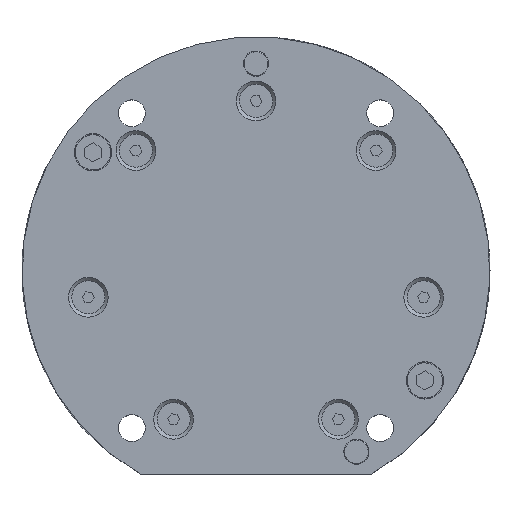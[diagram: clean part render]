
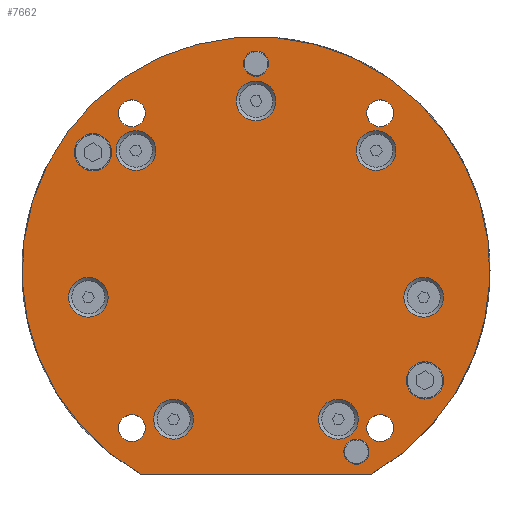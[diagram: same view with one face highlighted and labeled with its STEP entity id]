
A CAD part, top view. The second image highlights one B-rep face of the part: STEP entity #7662.
In plain terms, the highlighted planar face has unit normal (0, 0, 1).
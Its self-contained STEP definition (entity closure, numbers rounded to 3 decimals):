
#7662=ADVANCED_FACE('',(#20522,#20523,#20524,#20525,#20526,#20527,#20528
   ,#20529,#20530,#20531,#20532,#20533,#20534,#20535,#20536,#20537),
   #20643,.F.);
#13467=VERTEX_POINT('',#13468);
#13468=CARTESIAN_POINT('',(-27.654,-49.27,60.5)
   );
#13469=EDGE_CURVE('',#13467,#13475,#13470,.T.);
#13470=CIRCLE('',#13471,56.5);
#13471=AXIS2_PLACEMENT_3D('',#13472,#13473,#13474);
#13472=CARTESIAN_POINT('',(0.,0.,
   60.5));
#13473=DIRECTION('',(0.,0.,-1.));
#13474=DIRECTION('',(-1.,0.,0.));
#13475=VERTEX_POINT('',#13476);
#13476=CARTESIAN_POINT('',(27.654,-49.27,60.5))
   ;
#13585=EDGE_CURVE('',#13467,#13475,#13586,.T.);
#13586=LINE('',#13587,#13588);
#13587=CARTESIAN_POINT('',(-27.654,-49.27,60.5)
   );
#13588=VECTOR('',#13589,1.);
#13589=DIRECTION('',(1.,0.,0.));
#14880=EDGE_CURVE('',#14886,#14886,#14881,.T.);
#14881=CIRCLE('',#14882,3.25);
#14882=AXIS2_PLACEMENT_3D('',#14883,#14884,#14885);
#14883=CARTESIAN_POINT('',(30.,-38.,60.5));
#14884=DIRECTION('',(0.,0.,1.));
#14885=DIRECTION('',(1.,0.,0.));
#14886=VERTEX_POINT('',#14887);
#14887=CARTESIAN_POINT('',(33.25,-38.,60.5));
#14937=EDGE_CURVE('',#14943,#14943,#14938,.T.);
#14938=CIRCLE('',#14939,3.25);
#14939=AXIS2_PLACEMENT_3D('',#14940,#14941,#14942);
#14940=CARTESIAN_POINT('',(30.,38.,60.5));
#14941=DIRECTION('',(0.,0.,1.));
#14942=DIRECTION('',(1.,0.,0.));
#14943=VERTEX_POINT('',#14944);
#14944=CARTESIAN_POINT('',(33.25,38.,60.5));
#14994=EDGE_CURVE('',#15000,#15000,#14995,.T.);
#14995=CIRCLE('',#14996,3.25);
#14996=AXIS2_PLACEMENT_3D('',#14997,#14998,#14999);
#14997=CARTESIAN_POINT('',(-30.,38.,60.5));
#14998=DIRECTION('',(0.,0.,1.));
#14999=DIRECTION('',(1.,0.,0.));
#15000=VERTEX_POINT('',#15001);
#15001=CARTESIAN_POINT('',(-26.75,38.,60.5));
#15051=EDGE_CURVE('',#15057,#15057,#15052,.T.);
#15052=CIRCLE('',#15053,3.25);
#15053=AXIS2_PLACEMENT_3D('',#15054,#15055,#15056);
#15054=CARTESIAN_POINT('',(-30.,-38.,60.5));
#15055=DIRECTION('',(0.,0.,1.));
#15056=DIRECTION('',(1.,0.,0.));
#15057=VERTEX_POINT('',#15058);
#15058=CARTESIAN_POINT('',(-26.75,-38.,60.5));
#20482=EDGE_CURVE('',#20488,#20488,#20483,.T.);
#20483=CIRCLE('',#20484,3.035);
#20484=AXIS2_PLACEMENT_3D('',#20485,#20486,#20487);
#20485=CARTESIAN_POINT('',(24.24,-43.731,
   60.5));
#20486=DIRECTION('',(0.,0.,1.));
#20487=DIRECTION('',(1.,0.,0.));
#20488=VERTEX_POINT('',#20489);
#20489=CARTESIAN_POINT('',(27.275,-43.731,
   60.5));
#20509=EDGE_CURVE('',#20515,#20515,#20510,.T.);
#20510=CIRCLE('',#20511,3.035);
#20511=AXIS2_PLACEMENT_3D('',#20512,#20513,#20514);
#20512=CARTESIAN_POINT('',(0.,50.,60.5));
#20513=DIRECTION('',(0.,0.,1.));
#20514=DIRECTION('',(1.,0.,0.));
#20515=VERTEX_POINT('',#20516);
#20516=CARTESIAN_POINT('',(3.035,50.,60.5));
#20522=FACE_OUTER_BOUND('',#20538,.T.);
#20523=FACE_BOUND('',#20539,.T.);
#20524=FACE_BOUND('',#20540,.T.);
#20525=FACE_BOUND('',#20541,.T.);
#20526=FACE_BOUND('',#20542,.T.);
#20527=FACE_BOUND('',#20543,.T.);
#20528=FACE_BOUND('',#20544,.T.);
#20529=FACE_BOUND('',#20545,.T.);
#20530=FACE_BOUND('',#20546,.T.);
#20531=FACE_BOUND('',#20547,.T.);
#20532=FACE_BOUND('',#20548,.T.);
#20533=FACE_BOUND('',#20549,.T.);
#20534=FACE_BOUND('',#20550,.T.);
#20535=FACE_BOUND('',#20551,.T.);
#20536=FACE_BOUND('',#20552,.T.);
#20537=FACE_BOUND('',#20553,.T.);
#20538=EDGE_LOOP('',(#20554));
#20539=EDGE_LOOP('',(#20563));
#20540=EDGE_LOOP('',(#20572));
#20541=EDGE_LOOP('',(#20581));
#20542=EDGE_LOOP('',(#20590));
#20543=EDGE_LOOP('',(#20599));
#20544=EDGE_LOOP('',(#20608));
#20545=EDGE_LOOP('',(#20617));
#20546=EDGE_LOOP('',(#20618));
#20547=EDGE_LOOP('',(#20619));
#20548=EDGE_LOOP('',(#20620));
#20549=EDGE_LOOP('',(#20621));
#20550=EDGE_LOOP('',(#20622));
#20551=EDGE_LOOP('',(#20623));
#20552=EDGE_LOOP('',(#20632));
#20553=EDGE_LOOP('',(#20641,#20642));
#20554=ORIENTED_EDGE('',*,*,#20555,.T.);
#20555=EDGE_CURVE('',#20561,#20561,#20556,.T.);
#20556=CIRCLE('',#20557,4.8);
#20557=AXIS2_PLACEMENT_3D('',#20558,#20559,#20560);
#20558=CARTESIAN_POINT('',(0.,41.,60.5));
#20559=DIRECTION('',(0.,0.,-1.));
#20560=DIRECTION('',(1.,0.,0.));
#20561=VERTEX_POINT('',#20562);
#20562=CARTESIAN_POINT('',(4.8,41.,60.5));
#20563=ORIENTED_EDGE('',*,*,#20564,.T.);
#20564=EDGE_CURVE('',#20570,#20570,#20565,.T.);
#20565=CIRCLE('',#20566,4.8);
#20566=AXIS2_PLACEMENT_3D('',#20567,#20568,#20569);
#20567=CARTESIAN_POINT('',(-19.877,-35.859
   ,60.5));
#20568=DIRECTION('',(0.,0.,-1.));
#20569=DIRECTION('',(1.,0.,0.));
#20570=VERTEX_POINT('',#20571);
#20571=CARTESIAN_POINT('',(-15.077,-35.859
   ,60.5));
#20572=ORIENTED_EDGE('',*,*,#20573,.T.);
#20573=EDGE_CURVE('',#20579,#20579,#20574,.T.);
#20574=CIRCLE('',#20575,4.8);
#20575=AXIS2_PLACEMENT_3D('',#20576,#20577,#20578);
#20576=CARTESIAN_POINT('',(19.877,-35.859,
   60.5));
#20577=DIRECTION('',(0.,0.,-1.));
#20578=DIRECTION('',(1.,0.,0.));
#20579=VERTEX_POINT('',#20580);
#20580=CARTESIAN_POINT('',(24.677,-35.859,
   60.5));
#20581=ORIENTED_EDGE('',*,*,#20582,.T.);
#20582=EDGE_CURVE('',#20588,#20588,#20583,.T.);
#20583=CIRCLE('',#20584,4.8);
#20584=AXIS2_PLACEMENT_3D('',#20585,#20586,#20587);
#20585=CARTESIAN_POINT('',(-40.495,-6.414
   ,60.5));
#20586=DIRECTION('',(0.,0.,-1.));
#20587=DIRECTION('',(1.,0.,0.));
#20588=VERTEX_POINT('',#20589);
#20589=CARTESIAN_POINT('',(-35.695,-6.414
   ,60.5));
#20590=ORIENTED_EDGE('',*,*,#20591,.T.);
#20591=EDGE_CURVE('',#20597,#20597,#20592,.T.);
#20592=CIRCLE('',#20593,4.8);
#20593=AXIS2_PLACEMENT_3D('',#20594,#20595,#20596);
#20594=CARTESIAN_POINT('',(40.495,-6.414,
   60.5));
#20595=DIRECTION('',(0.,0.,-1.));
#20596=DIRECTION('',(1.,0.,0.));
#20597=VERTEX_POINT('',#20598);
#20598=CARTESIAN_POINT('',(45.295,-6.414,
   60.5));
#20599=ORIENTED_EDGE('',*,*,#20600,.T.);
#20600=EDGE_CURVE('',#20606,#20606,#20601,.T.);
#20601=CIRCLE('',#20602,4.8);
#20602=AXIS2_PLACEMENT_3D('',#20603,#20604,#20605);
#20603=CARTESIAN_POINT('',(28.991,28.991,
   60.5));
#20604=DIRECTION('',(0.,0.,-1.));
#20605=DIRECTION('',(1.,0.,0.));
#20606=VERTEX_POINT('',#20607);
#20607=CARTESIAN_POINT('',(33.791,28.991,
   60.5));
#20608=ORIENTED_EDGE('',*,*,#20609,.T.);
#20609=EDGE_CURVE('',#20615,#20615,#20610,.T.);
#20610=CIRCLE('',#20611,4.8);
#20611=AXIS2_PLACEMENT_3D('',#20612,#20613,#20614);
#20612=CARTESIAN_POINT('',(-28.991,28.991,
   60.5));
#20613=DIRECTION('',(0.,0.,-1.));
#20614=DIRECTION('',(1.,0.,0.));
#20615=VERTEX_POINT('',#20616);
#20616=CARTESIAN_POINT('',(-24.191,28.991,
   60.5));
#20617=ORIENTED_EDGE('',*,*,#20509,.F.);
#20618=ORIENTED_EDGE('',*,*,#20482,.F.);
#20619=ORIENTED_EDGE('',*,*,#15051,.F.);
#20620=ORIENTED_EDGE('',*,*,#14880,.F.);
#20621=ORIENTED_EDGE('',*,*,#14937,.F.);
#20622=ORIENTED_EDGE('',*,*,#14994,.F.);
#20623=ORIENTED_EDGE('',*,*,#20624,.F.);
#20624=EDGE_CURVE('',#20630,#20630,#20625,.T.);
#20625=CIRCLE('',#20626,4.5);
#20626=AXIS2_PLACEMENT_3D('',#20627,#20628,#20629);
#20627=CARTESIAN_POINT('',(-39.35,28.59,60.5));
#20628=DIRECTION('',(0.,0.,1.));
#20629=DIRECTION('',(1.,0.,0.));
#20630=VERTEX_POINT('',#20631);
#20631=CARTESIAN_POINT('',(-34.85,28.59,60.5));
#20632=ORIENTED_EDGE('',*,*,#20633,.F.);
#20633=EDGE_CURVE('',#20639,#20639,#20634,.T.);
#20634=CIRCLE('',#20635,4.5);
#20635=AXIS2_PLACEMENT_3D('',#20636,#20637,#20638);
#20636=CARTESIAN_POINT('',(40.79,-26.49,60.5));
#20637=DIRECTION('',(0.,0.,1.));
#20638=DIRECTION('',(1.,0.,0.));
#20639=VERTEX_POINT('',#20640);
#20640=CARTESIAN_POINT('',(45.29,-26.49,60.5));
#20641=ORIENTED_EDGE('',*,*,#13585,.T.);
#20642=ORIENTED_EDGE('',*,*,#13469,.F.);
#20643=PLANE('',#20644);
#20644=AXIS2_PLACEMENT_3D('',#20645,#20646,#20647);
#20645=CARTESIAN_POINT('',(0.,0.,
   60.5));
#20646=DIRECTION('',(0.,0.,-1.));
#20647=DIRECTION('',(-1.,0.,0.));
